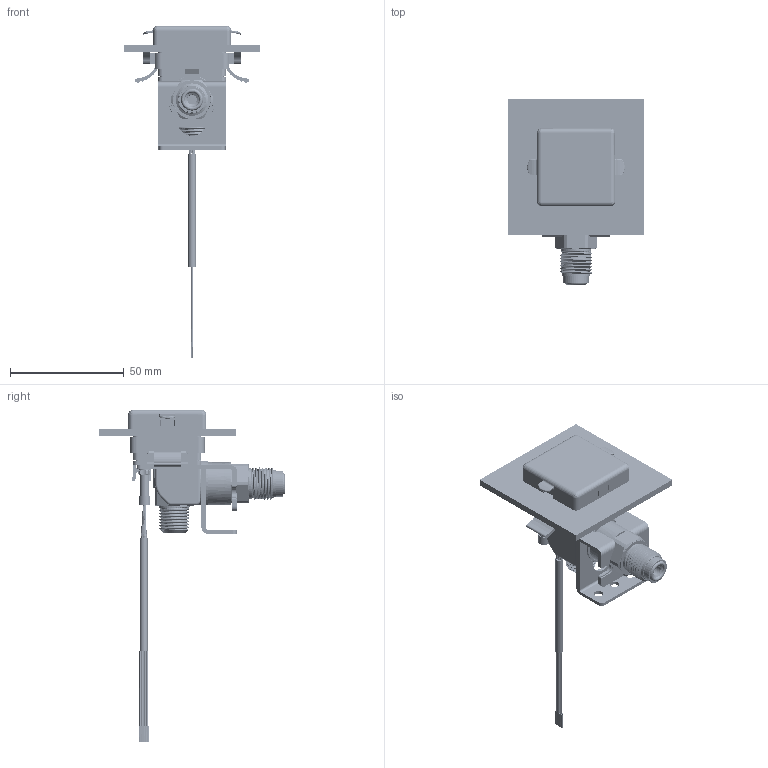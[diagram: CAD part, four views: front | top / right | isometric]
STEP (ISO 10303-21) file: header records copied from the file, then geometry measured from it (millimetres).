
FILE_DESCRIPTION (( 'STEP AP203' ), '1' );
FILE_NAME ('KP58EH-ALL.STEP', '2026-04-29T07:44:05', ( '' ), ( '' ), 'SwSTEP 2.0', 'SolidWorks 2022', '' );
FILE_SCHEMA (( 'CONFIG_CONTROL_DESIGN' ));
Length unit declared in the file: millimetre
Products named in the file (67): Board^面板固定座_KP58EH-ALL(2)_KP58EH-ALL; P-0787^CN-0090-02_KP58EH-ALL(2)_KP58EH-ALL; p-0360-a3^面板固定座_KP58EH-ALL(2)_KP58EH-ALL; i-0580.prt; kp58e-一般型下殼; CN-0090-02^KP58EH-ALL(2)_KP58EH-ALL; P-0781^KP58EH-ALL(2)_KP58EH-ALL; i-0360-a2^kp58eh-180度-r(2)_kp58eh-180度-RG; p-0783^kp58e-02l(2)_kp58e-02l; P-0342^KP58EH-ALL(2)_KP58EH-ALL; i-0581.prt; i-0571^kp58eh-180度-r(2)_kp58eh-180度-RG; i-0572^kp58e-02l(2)_kp58e-02l; i-0312^CN-0090-02_KP58EH-ALL(2)_KP58EH-ALL; P-0777^P-0776-01_KP58EH-ALL(2)_KP58EH-ALL; kp58e-一般型下殼.asm; I-0576^CN-0090-02_KP58EH-ALL(2)_KP58EH-ALL; BT-22.23^KP58EH-ALL(2)_KP58EH-ALL; BT-31.BT-32^KP58EH-ALL(2)_KP58EH-ALL; W-0164-01^CN-0090-02_KP58EH-ALL(2)_KP58EH-ALL; i-0450^BT-22.23_KP58EH-ALL(2)_KP58EH-ALL; p-0785^kp58e-02l(2)_kp58e-02l; p-0778.prt; p-0785^kp58eh-180度-r(2)_kp58eh-180度-RG; kp58eh-180度-g; 20230616-CN-0061_PIN^CN-0090-02_KP58EH-ALL(2)_KP58EH-ALL; i-0566i-0566.prt; i-0608^kp58e-02l(2)_kp58e-02l; SCR-0090^BT-22.23_KP58EH-ALL(2)_KP58EH-ALL; i-0564i-0564.prt; LCD-0035^KP58EH-ALL(2)_KP58EH-ALL; 20230525-p-0591^kp58e-02l(2)_kp58e-02l; KP58EH-ALL; kp58e-02l; P-0359-A2^面板固定座_KP58EH-ALL(2)_KP58EH-ALL; kp58eh-180度-r(2)^kp58eh-180度-RG; P-0779^KP58EH-ALL(2)_KP58EH-ALL; P-0544^KP58EH-ALL(2)_KP58EH-ALL; PAN-0145^KP58EH-ALL(2)_KP58EH-ALL; I-0409^BT-31.BT-32_KP58EH-ALL(2)_KP58EH-ALL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
Assembly tree (76 placements, depth 5):
  KP58EH-ALL
    KP58EH-ALL(2)^KP58EH-ALL
      P-0776-01^KP58EH-ALL(2)_KP58EH-ALL
        P-0776_P-0776^P-0776-01_KP58EH-ALL(2)_KP58EH-ALL
        P-0777^P-0776-01_KP58EH-ALL(2)_KP58EH-ALL
      CN-0090-02^KP58EH-ALL(2)_KP58EH-ALL
        W-0164-01^CN-0090-02_KP58EH-ALL(2)_KP58EH-ALL
          W-0164-01_W-0130A^W-0164-01_CN-0090-02_KP58EH-ALL(2)_KP58EH-ALL
        i-0312^CN-0090-02_KP58EH-ALL(2)_KP58EH-ALL  x5
        20230616-CN-0061_PIN^CN-0090-02_KP58EH-ALL(2)_KP58EH-ALL
        P-0784^CN-0090-02_KP58EH-ALL(2)_KP58EH-ALL
        P-0786^CN-0090-02_KP58EH-ALL(2)_KP58EH-ALL
        I-0576^CN-0090-02_KP58EH-ALL(2)_KP58EH-ALL  x5
        P-0787^CN-0090-02_KP58EH-ALL(2)_KP58EH-ALL
      ATT-0005^KP58EH-ALL(2)_KP58EH-ALL
        I-0256^ATT-0005_KP58EH-ALL(2)_KP58EH-ALL
        EO-0086^ATT-0005_KP58EH-ALL(2)_KP58EH-ALL
      面板固定座^KP58EH-ALL(2)_KP58EH-ALL
        P-0358-A3^面板固定座_KP58EH-ALL(2)_KP58EH-ALL
        p-0360-a3^面板固定座_KP58EH-ALL(2)_KP58EH-ALL
        P-0359-A2^面板固定座_KP58EH-ALL(2)_KP58EH-ALL
        Board^面板固定座_KP58EH-ALL(2)_KP58EH-ALL
      BT-31.BT-32^KP58EH-ALL(2)_KP58EH-ALL
        I-0408^BT-31.BT-32_KP58EH-ALL(2)_KP58EH-ALL
        I-0409^BT-31.BT-32_KP58EH-ALL(2)_KP58EH-ALL
        SCR-0090^BT-31.BT-32_KP58EH-ALL(2)_KP58EH-ALL  x2
      BT-22.23^KP58EH-ALL(2)_KP58EH-ALL
        i-0450^BT-22.23_KP58EH-ALL(2)_KP58EH-ALL
        i-0451^BT-22.23_KP58EH-ALL(2)_KP58EH-ALL
        SCR-0090^BT-22.23_KP58EH-ALL(2)_KP58EH-ALL  x2
      P-0342^KP58EH-ALL(2)_KP58EH-ALL
      P-0544^KP58EH-ALL(2)_KP58EH-ALL
      P-0780^KP58EH-ALL(2)_KP58EH-ALL
      P-0779^KP58EH-ALL(2)_KP58EH-ALL
      P-0781^KP58EH-ALL(2)_KP58EH-ALL
      P-0788^KP58EH-ALL(2)_KP58EH-ALL
      LCD-0035^KP58EH-ALL(2)_KP58EH-ALL
      PAN-0145^KP58EH-ALL(2)_KP58EH-ALL
      kp58e-02l
        kp58e-02l(2)^kp58e-02l
          p-0783^kp58e-02l(2)_kp58e-02l
          i-0608^kp58e-02l(2)_kp58e-02l
          i-0572^kp58e-02l(2)_kp58e-02l
          20230525-p-0591^kp58e-02l(2)_kp58e-02l
          i-0568^kp58e-02l(2)_kp58e-02l
          p-0785^kp58e-02l(2)_kp58e-02l
          i-0570^kp58e-02l(2)_kp58e-02l
      kp58eh-180度-RG
        kp58eh-180度-r(2)^kp58eh-180度-RG
          i-0568^kp58eh-180度-r(2)_kp58eh-180度-RG
          i-0572^kp58eh-180度-r(2)_kp58eh-180度-RG
          p-0782^kp58eh-180度-r(2)_kp58eh-180度-RG
          p-0785^kp58eh-180度-r(2)_kp58eh-180度-RG
          i-0571^kp58eh-180度-r(2)_kp58eh-180度-RG
          i-0360-a2^kp58eh-180度-r(2)_kp58eh-180度-RG
        kp58eh-180度-g
      kp58e-一般型下殼
        kp58e-一般型下殼.asm
          p-0745p-0745__dwed.prt
          p-0352.prt
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Bounding box: 60 x 81.67 x 146.15 mm (x, y, z)
Volume: 52724.3 mm3; surface area: 90570.4 mm2
Topology: 64 solids, 139 shells, 9335 faces, 25479 edges, 16591 vertices
Faces by surface type: plane 5133, cylinder 2132, bspline 932, cone 802, torus 316, sphere 20
Entity records: 579674 total; most frequent: CARTESIAN_POINT 383110, ORIENTED_EDGE 43510, DIRECTION 31804, EDGE_CURVE 22051, VERTEX_POINT 14431, AXIS2_PLACEMENT_3D 10708, LINE 10388, VECTOR 10388
